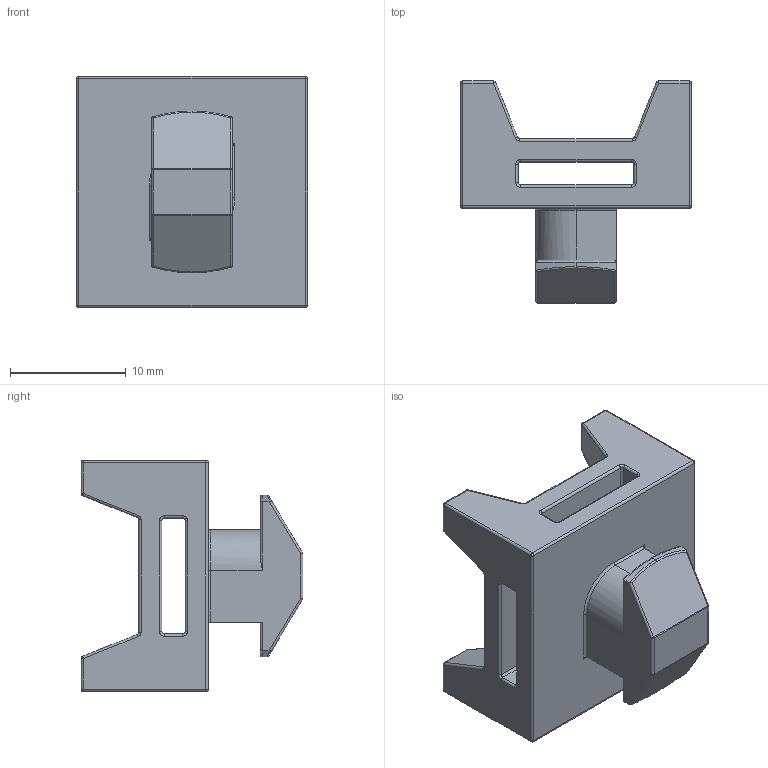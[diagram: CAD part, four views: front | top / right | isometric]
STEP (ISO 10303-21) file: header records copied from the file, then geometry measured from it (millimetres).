
FILE_DESCRIPTION (( 'STEP AP203' ), '1' );
FILE_NAME ('412015_Kreuzkabelbinderblock 8.step', '2022-06-08T08:32:28', ( '' ), ( '' ), 'SwSTEP 2.0', 'SolidWorks 2021', '' );
FILE_SCHEMA (( 'CONFIG_CONTROL_DESIGN' ));
Length unit declared in the file: millimetre
Products named in the file (1): 412015_Kreuzkabelbinderblock 8
Bounding box: 20 x 19.2 x 20 mm (x, y, z)
Volume: 2606.8 mm3; surface area: 2407 mm2
Topology: 1 solids, 1 shells, 212 faces, 498 edges, 267 vertices
Faces by surface type: cylinder 105, torus 37, plane 37, sphere 24, bspline 9
Entity records: 6009 total; most frequent: CARTESIAN_POINT 1189, DIRECTION 1083, ORIENTED_EDGE 956, EDGE_CURVE 478, AXIS2_PLACEMENT_3D 435, VERTEX_POINT 267, CIRCLE 231, EDGE_LOOP 217
